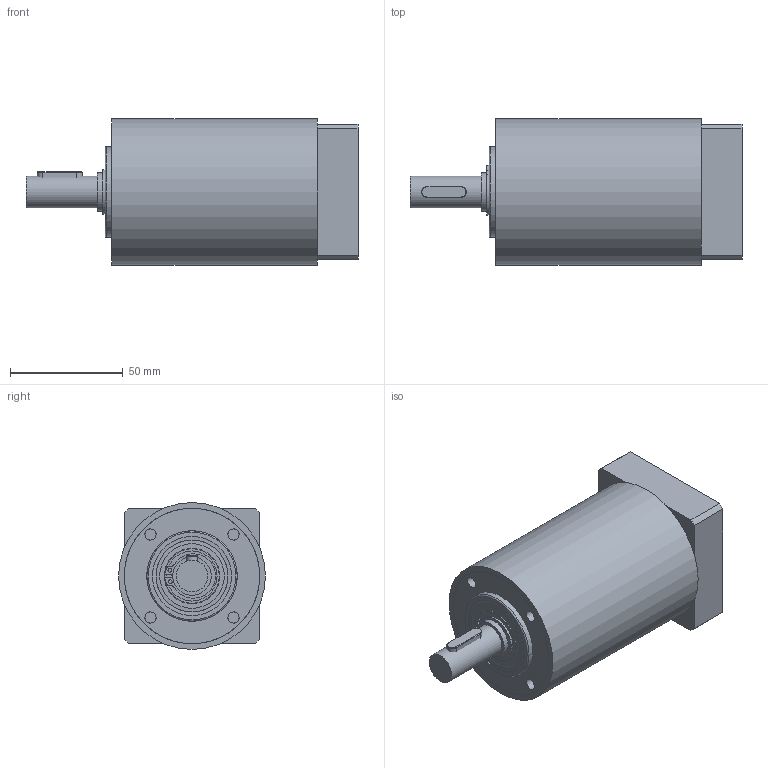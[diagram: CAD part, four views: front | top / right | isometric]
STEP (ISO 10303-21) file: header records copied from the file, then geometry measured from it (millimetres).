
FILE_DESCRIPTION(/* description */ (''),/* implementation_level */ '2;1');
FILE_NAME(/* name */ 'pnMP1651829095860_step214.stp',/* time_stamp */ '2022-05-06T11:25:17+02:00',/* author */ (''),/* organization */ (''),/* preprocessor_version */ 'ST-DEVELOPER v16.7',/* originating_system */ 'SIEMENS PLM Software NX 1884',/* authorisation */ '');
FILE_SCHEMA (('AUTOMOTIVE_DESIGN { 1 0 10303 214 0 1 1 1 }'));
Length unit declared in the file: millimetre
Products named in the file (1): pnMP1651829095860_M
Bounding box: 146.95 x 65 x 65 mm (x, y, z)
Volume: 357553.2 mm3; surface area: 70007.7 mm2
Topology: 14 solids, 14 shells, 184 faces, 367 edges, 232 vertices
Faces by surface type: plane 80, cylinder 67, cone 25, torus 12
Full cylindrical faces by diameter (mm): 1.7 x2, 4 x9, 5 x4, 7.22 x1, 7.5 x1, 9.75 x1, 10 x1, 12.5 x1, 14 x1, 15 x2, 16.2 x1, 17 x3, 22.2 x2, 23.5 x1, 24.5 x2, 32 x1, 32.9 x2, 35 x4, 35.5 x1, 38.1 x1, 40 x3, 50 x3, 60 x2, 65 x1
Entity records: 4505 total; most frequent: DIRECTION 802, CARTESIAN_POINT 794, ORIENTED_EDGE 552, AXIS2_PLACEMENT_3D 355, EDGE_LOOP 312, EDGE_CURVE 276, FACE_BOUND 239, VERTEX_POINT 219
